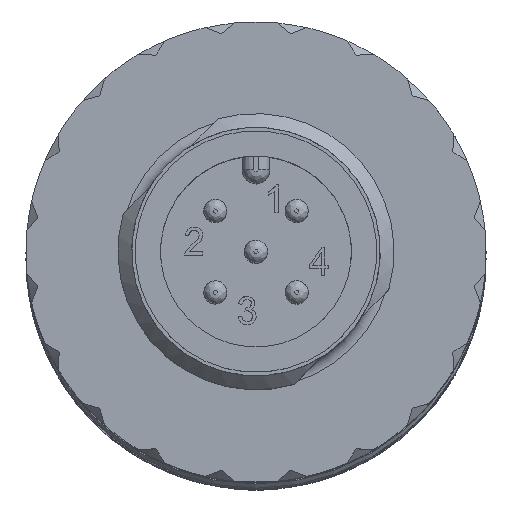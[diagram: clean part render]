
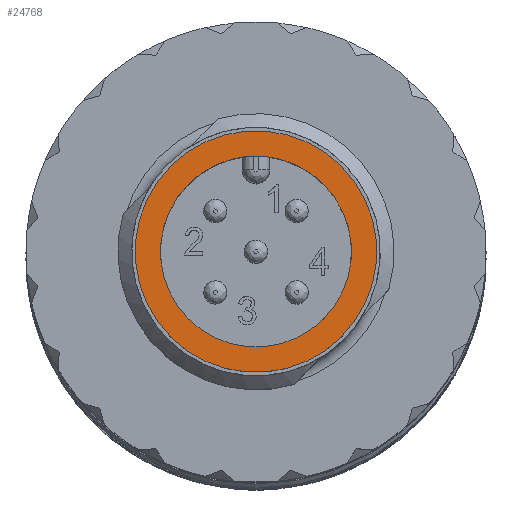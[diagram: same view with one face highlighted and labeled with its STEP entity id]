
A CAD part, top view. The second image highlights one B-rep face of the part: STEP entity #24768.
In plain terms, the highlighted planar face has unit normal (0, 0, 1).
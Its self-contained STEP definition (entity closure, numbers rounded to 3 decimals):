
#444=FACE_BOUND('',#3423,.T.);
#951=PLANE('',#26230);
#2094=FACE_OUTER_BOUND('',#3422,.T.);
#3422=EDGE_LOOP('',(#19701));
#3423=EDGE_LOOP('',(#19702));
#10386=CIRCLE('',#26231,5.25);
#10387=CIRCLE('',#26232,4.15);
#11602=VERTEX_POINT('',#36771);
#11603=VERTEX_POINT('',#36773);
#14543=EDGE_CURVE('',#11602,#11602,#10386,.T.);
#14544=EDGE_CURVE('',#11603,#11603,#10387,.T.);
#19701=ORIENTED_EDGE('',*,*,#14543,.F.);
#19702=ORIENTED_EDGE('',*,*,#14544,.T.);
#24768=ADVANCED_FACE('',(#2094,#444),#951,.T.);
#26230=AXIS2_PLACEMENT_3D('',#36770,#29789,#29790);
#26231=AXIS2_PLACEMENT_3D('',#36772,#29791,#29792);
#26232=AXIS2_PLACEMENT_3D('',#36774,#29793,#29794);
#29789=DIRECTION('center_axis',(0.,0.,
1.));
#29790=DIRECTION('ref_axis',(-0.707,-0.707,0.));
#29791=DIRECTION('center_axis',(0.,0.,
-1.));
#29792=DIRECTION('ref_axis',(0.707,0.707,0.));
#29793=DIRECTION('center_axis',(0.,0.,
-1.));
#29794=DIRECTION('ref_axis',(0.707,0.707,0.));
#36770=CARTESIAN_POINT('Origin',(3.323,3.323,19.2));
#36771=CARTESIAN_POINT('',(-3.712,-3.712,19.2));
#36772=CARTESIAN_POINT('Origin',(0.,0.,
19.2));
#36773=CARTESIAN_POINT('',(-2.934,-2.934,19.2));
#36774=CARTESIAN_POINT('Origin',(0.,0.,
19.2));
